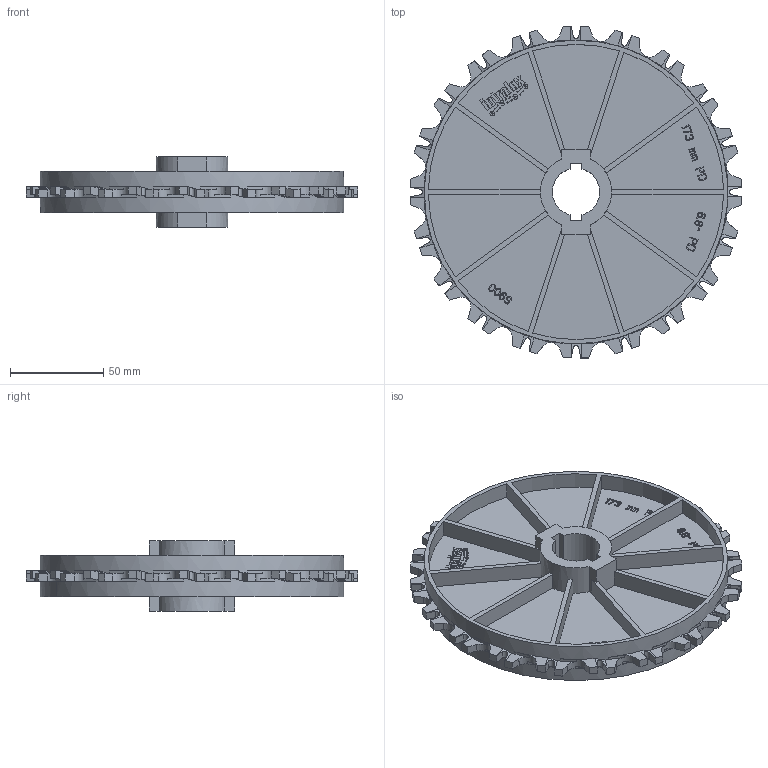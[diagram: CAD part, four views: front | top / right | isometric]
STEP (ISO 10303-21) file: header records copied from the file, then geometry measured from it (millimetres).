
FILE_DESCRIPTION((''),'2;1');
FILE_NAME('S900_SPROCKET_68X25_PILOT','2008-12-12T',('jmumphre'),(''),'PRO/ENGINEER BY PARAMETRIC TECHNOLOGY CORPORATION, 2008150','PRO/ENGINEER BY PARAMETRIC TECHNOLOGY CORPORATION, 2008150','');
FILE_SCHEMA(('CONFIG_CONTROL_DESIGN'));
Length unit declared in the file: inch
Products named in the file (1): S900_SPROCKET_68X25_PILOT
Bounding box: 177.86 x 177.86 x 37.59 mm (x, y, z)
Volume: 172864.2 mm3; surface area: 94788.6 mm2
Topology: 1 solids, 1 shells, 1263 faces, 3725 edges, 2510 vertices
Faces by surface type: plane 1103, cylinder 160
Entity records: 42612 total; most frequent: CARTESIAN_POINT 8715, ORIENTED_EDGE 7450, DIRECTION 6467, EDGE_CURVE 3725, VECTOR 3181, LINE 3181, VERTEX_POINT 2510, AXIS2_PLACEMENT_3D 1643
